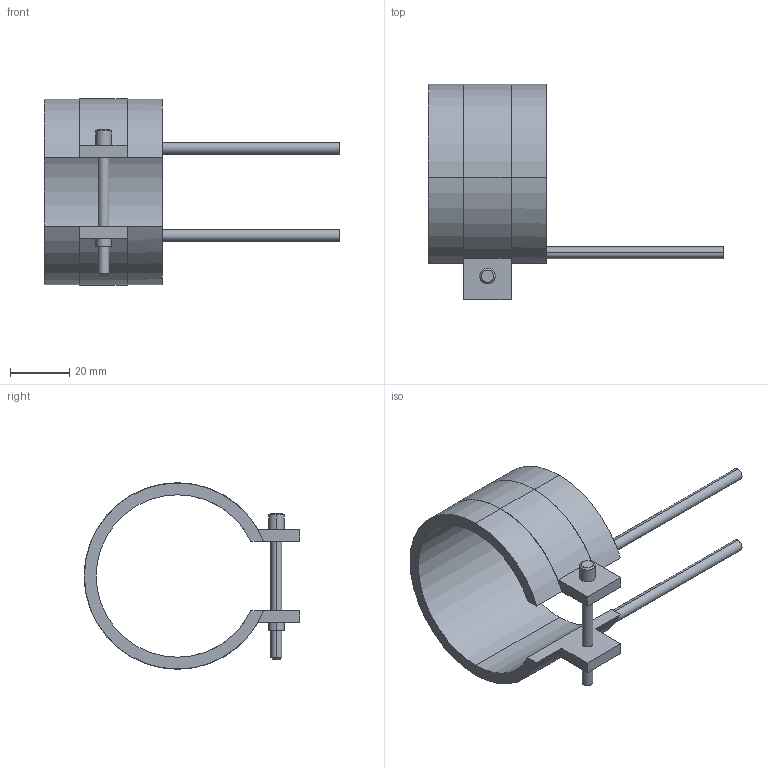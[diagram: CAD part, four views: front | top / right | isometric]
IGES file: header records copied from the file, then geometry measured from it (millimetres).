
Start section: START RECORD GO HERE.
Global section: file name: 14055040.igs; native system: DASSAULT SYSTEMES CATIA V5 R20 - www.3ds.com; preprocessor: CATIA Version 5 Release 20 ; author: Utente; organization: NB04-ASUS; date: 20210401.113426; units: millimetre
Bounding box: 100 x 73.1 x 63.2 mm (x, y, z)
Surface area: 17612 mm2 (no closed solid volume)
Topology: 0 solids, 0 shells, 45 faces, 232 edges, 232 vertices
Faces by surface type: revolution 28, plane 17
